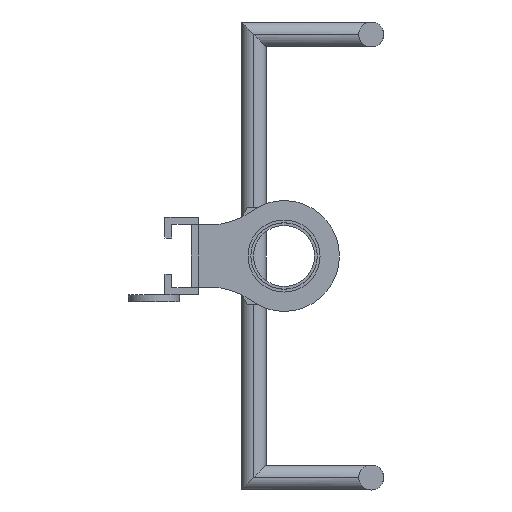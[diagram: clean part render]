
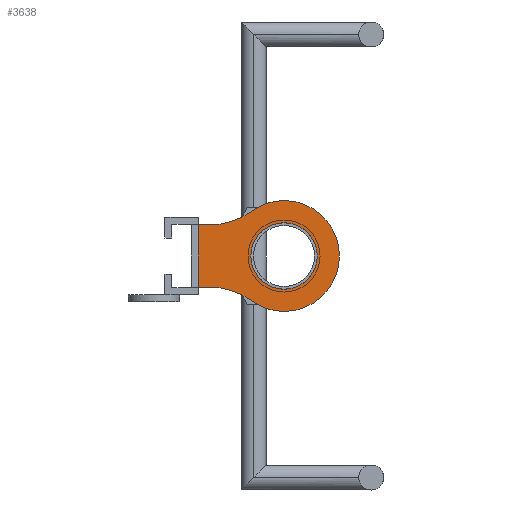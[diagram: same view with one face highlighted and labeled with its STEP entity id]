
A CAD part, front view. The second image highlights one B-rep face of the part: STEP entity #3638.
In plain terms, the highlighted planar face has unit normal (0, -1, 0).
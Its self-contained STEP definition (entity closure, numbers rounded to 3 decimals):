
#2874=CARTESIAN_POINT('',(8.673,-1070.,-72.5));
#2875=DIRECTION('',(0.,1.,0.));
#2876=DIRECTION('',(0.,0.,1.));
#2877=AXIS2_PLACEMENT_3D('',#2874,#2875,#2876);
#2892=CARTESIAN_POINT('',(8.673,-1070.,72.5));
#2893=DIRECTION('',(0.,1.,0.));
#2894=DIRECTION('',(0.593,0.,-0.806));
#2895=AXIS2_PLACEMENT_3D('',#2892,#2893,#2894);
#2913=CARTESIAN_POINT('',(62.,-1070.,0.));
#2914=DIRECTION('',(0.,1.,0.));
#2915=DIRECTION('',(1.,0.,0.));
#2916=AXIS2_PLACEMENT_3D('',#2913,#2914,#2915);
#2918=CARTESIAN_POINT('',(62.,-1070.,0.));
#2919=DIRECTION('',(0.,1.,0.));
#2920=DIRECTION('',(-1.,0.,0.));
#2921=AXIS2_PLACEMENT_3D('',#2918,#2919,#2920);
#2923=CARTESIAN_POINT('',(62.,-1070.,0.));
#2924=DIRECTION('',(0.,-1.,0.));
#2925=DIRECTION('',(-0.593,0.,-0.806));
#2926=AXIS2_PLACEMENT_3D('',#2923,#2924,#2925);
#2928=DIRECTION('',(1.,0.,0.));
#2929=VECTOR('',#2928,8.673);
#2930=CARTESIAN_POINT('',(0.,-1070.,-22.5));
#2931=LINE('',#2930,#2929);
#2932=DIRECTION('',(0.,0.,1.));
#2933=VECTOR('',#2932,45.);
#2934=CARTESIAN_POINT('',(0.,-1070.,-22.5));
#2935=LINE('',#2934,#2933);
#2936=DIRECTION('',(-1.,0.,0.));
#2937=VECTOR('',#2936,8.673);
#2938=CARTESIAN_POINT('',(8.673,-1070.,22.5));
#2939=LINE('',#2938,#2937);
#3287=CARTESIAN_POINT('',(86.,-1070.,0.));
#3288=CARTESIAN_POINT('',(38.,-1070.,0.));
#3289=VERTEX_POINT('',#3287);
#3290=VERTEX_POINT('',#3288);
#3317=CARTESIAN_POINT('',(0.,-1070.,-22.5));
#3318=CARTESIAN_POINT('',(0.,-1070.,22.5));
#3319=VERTEX_POINT('',#3317);
#3320=VERTEX_POINT('',#3318);
#3380=CARTESIAN_POINT('',(8.673,-1070.,22.5));
#3382=VERTEX_POINT('',#3380);
#3384=CARTESIAN_POINT('',(38.299,-1070.,32.222));
#3386=VERTEX_POINT('',#3384);
#3388=CARTESIAN_POINT('',(38.299,-1070.,-32.222));
#3390=VERTEX_POINT('',#3388);
#3392=CARTESIAN_POINT('',(8.673,-1070.,-22.5));
#3394=VERTEX_POINT('',#3392);
#3618=CARTESIAN_POINT('',(0.,-1070.,0.));
#3619=DIRECTION('',(0.,-1.,0.));
#3620=DIRECTION('',(1.,0.,0.));
#3621=AXIS2_PLACEMENT_3D('',#3618,#3619,#3620);
#3622=PLANE('',#3621);
#3623=ORIENTED_EDGE('',*,*,#3581,.F.);
#3624=ORIENTED_EDGE('',*,*,#3567,.F.);
#3625=ORIENTED_EDGE('',*,*,#3553,.F.);
#3627=ORIENTED_EDGE('',*,*,#3626,.T.);
#3628=ORIENTED_EDGE('',*,*,#3606,.F.);
#3629=ORIENTED_EDGE('',*,*,#3595,.F.);
#3630=EDGE_LOOP('',(#3623,#3624,#3625,#3627,#3628,#3629));
#3631=FACE_OUTER_BOUND('',#3630,.F.);
#3633=ORIENTED_EDGE('',*,*,#3632,.F.);
#3635=ORIENTED_EDGE('',*,*,#3634,.F.);
#3636=EDGE_LOOP('',(#3633,#3635));
#3637=FACE_BOUND('',#3636,.F.);
#2878=CIRCLE('',#2877,50.);
#2896=CIRCLE('',#2895,50.);
#2917=CIRCLE('',#2916,24.);
#2922=CIRCLE('',#2921,24.);
#2927=CIRCLE('',#2926,40.);
#3553=EDGE_CURVE('',#3319,#3394,#2931,.T.);
#3567=EDGE_CURVE('',#3394,#3390,#2878,.T.);
#3581=EDGE_CURVE('',#3390,#3386,#2927,.T.);
#3595=EDGE_CURVE('',#3386,#3382,#2896,.T.);
#3606=EDGE_CURVE('',#3382,#3320,#2939,.T.);
#3626=EDGE_CURVE('',#3319,#3320,#2935,.T.);
#3632=EDGE_CURVE('',#3289,#3290,#2917,.T.);
#3634=EDGE_CURVE('',#3290,#3289,#2922,.T.);
#3638=ADVANCED_FACE('',(#3631,#3637),#3622,.T.);
